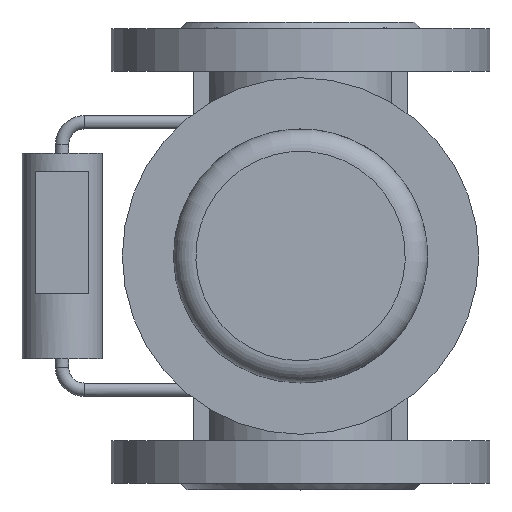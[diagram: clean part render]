
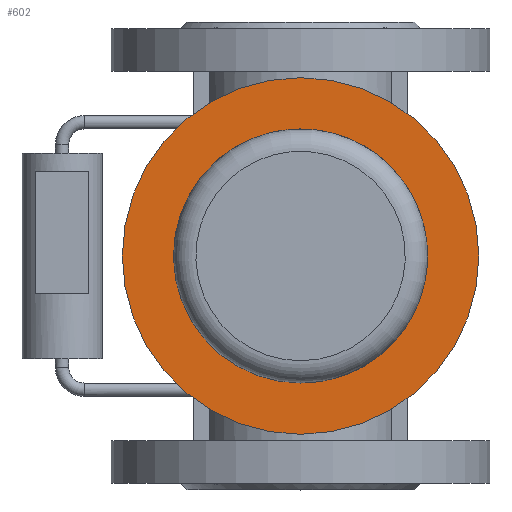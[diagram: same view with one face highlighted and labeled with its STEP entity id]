
A CAD part, left-side view. The second image highlights one B-rep face of the part: STEP entity #602.
In plain terms, the highlighted planar face has unit normal (-1, 0, 0).
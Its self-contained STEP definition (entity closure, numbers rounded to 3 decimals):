
#602=ADVANCED_FACE('',(#1194,#1196),#1198,.F.);
#1194=FACE_BOUND('',#1195,.T.);
#1195=EDGE_LOOP('',(#1534));
#1196=FACE_BOUND('',#1197,.T.);
#1197=EDGE_LOOP('',(#1535));
#1198=PLANE('',#1199);
#1199=AXIS2_PLACEMENT_3D('',#1200,#1201,#1202);
#1200=CARTESIAN_POINT('',(-97.679,4.467,-83.));
#1201=DIRECTION('',(1.,0.,0.));
#1202=DIRECTION('',(0.,0.,-1.));
#1534=ORIENTED_EDGE('',*,*,#1661,.F.);
#1535=ORIENTED_EDGE('',*,*,#1670,.F.);
#1661=EDGE_CURVE('',#1909,#1909,#1910,.T.);
#1670=EDGE_CURVE('',#1927,#1927,#1928,.T.);
#1909=VERTEX_POINT('',#3804);
#1910=CIRCLE('',#3805,80.);
#1927=VERTEX_POINT('',#3847);
#1928=CIRCLE('',#3848,57.);
#3804=CARTESIAN_POINT('',(-97.679,84.467,-83.));
#3805=AXIS2_PLACEMENT_3D('',#3806,#3807,#3808);
#3806=CARTESIAN_POINT('',(-97.679,4.467,-83.));
#3807=DIRECTION('',(1.,0.,0.));
#3808=DIRECTION('',(0.,1.,0.));
#3847=CARTESIAN_POINT('',(-97.679,4.467,-140.));
#3848=AXIS2_PLACEMENT_3D('',#3849,#3850,#3851);
#3849=CARTESIAN_POINT('',(-97.679,4.467,-83.));
#3850=DIRECTION('',(-1.,0.,0.));
#3851=DIRECTION('',(0.,0.,1.));
